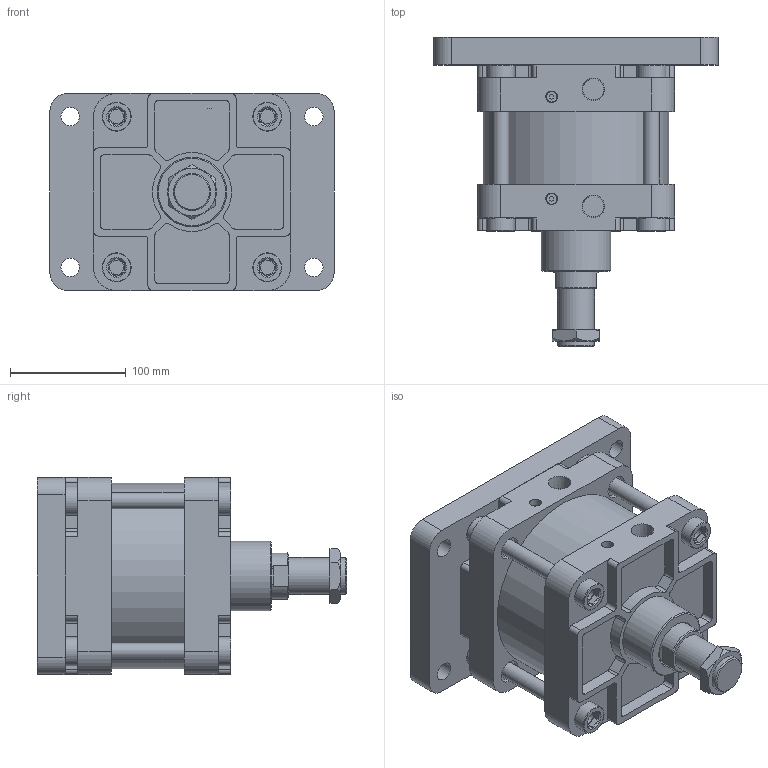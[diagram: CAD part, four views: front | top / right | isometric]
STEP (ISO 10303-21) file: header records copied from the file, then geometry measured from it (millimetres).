
FILE_DESCRIPTION(/* description */ ('Unknown'),/* implementation_level */ '2;1');
FILE_NAME(/* name */ 'WA150-0-FB',/* time_stamp */ '2026-07-17T17:00:45+08:00',/* author */ ('Unknown'),/* organization */ ('Unknown'),/* preprocessor_version */ 'ST-DEVELOPER v16.7',/* originating_system */ 'DEX',/* authorisation */ $);
FILE_SCHEMA (('CONFIG_CONTROL_DESIGN'));
Length unit declared in the file: millimetre
Products named in the file (8): WA150-0-FB; WA150_玡励D; WA150_後3; WA150_ｾT∫ｮ｡; WA150_¤ß¶b¬¡æ´»å¡žçµ„; M32-2.0P-10_螺; WA150_T帽牙; WA150_FA
Assembly tree (10 placements, depth 2):
  WA150-0-FB
    WA150_玡励D
    WA150_後3
    WA150_ｾT∫ｮ｡
    WA150_¤ß¶b¬¡æ´»å¡žçµ„
    M32-2.0P-10_螺
    WA150_T帽牙  x4
    WA150_FA
Bounding box: 245 x 267 x 170 mm (x, y, z)
Volume: 4170784.6 mm3; surface area: 517350.6 mm2
Topology: 10 solids, 10 shells, 416 faces, 1018 edges, 679 vertices
Faces by surface type: plane 229, cylinder 156, cone 23, torus 8
Full cylindrical faces by diameter (mm): 9 x2, 10 x2, 12.5 x8, 14 x4, 15 x4, 16 x4, 20 x16, 22.5 x4, 25 x8, 30 x1, 32 x1, 40 x2, 41 x1, 60 x1, 63 x1, 149.5 x1, 150 x3, 160 x1
Entity records: 11472 total; most frequent: CARTESIAN_POINT 1714, DIRECTION 1660, ORIENTED_EDGE 1466, EDGE_CURVE 733, AXIS2_PLACEMENT_3D 627, VERTEX_POINT 517, EDGE_LOOP 444, FACE_BOUND 444
